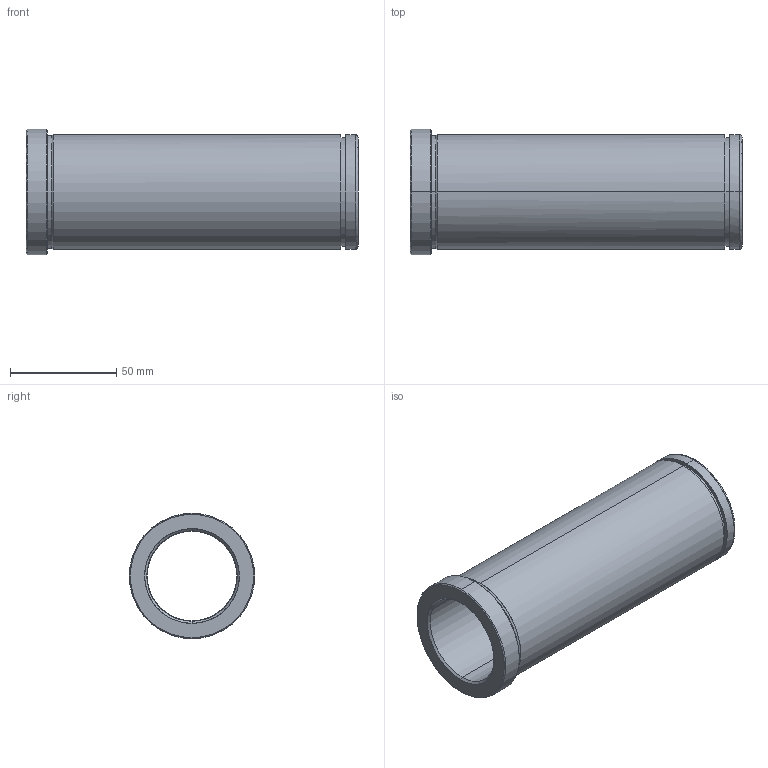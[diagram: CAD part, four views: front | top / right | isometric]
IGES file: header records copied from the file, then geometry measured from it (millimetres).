
Start section: START RECORD GO HERE.
Global section: file name: 553-42X156.igs; native system: DASSAULT SYSTEMES CATIA V5 R20 - www.3ds.com; preprocessor: CATIA Version 5 Release 20 ; author: Utente; organization: NB04-ASUS; date: 20210608.194523; units: millimetre
Bounding box: 156 x 59 x 59 mm (x, y, z)
Surface area: 50126 mm2 (no closed solid volume)
Topology: 0 solids, 0 shells, 32 faces, 204 edges, 204 vertices
Faces by surface type: revolution 26, plane 6
